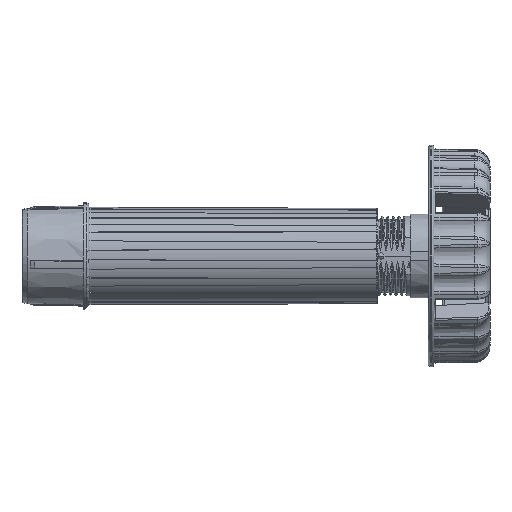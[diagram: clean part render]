
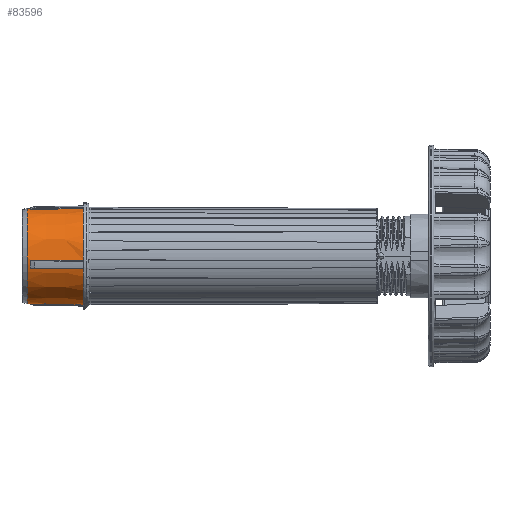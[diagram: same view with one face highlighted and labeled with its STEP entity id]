
A CAD part, left-side view. The second image highlights one B-rep face of the part: STEP entity #83596.
In plain terms, the highlighted conical face has half-angle 1 degrees and reference radius 17.285 mm.
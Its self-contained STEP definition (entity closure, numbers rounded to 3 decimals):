
#78003=CARTESIAN_POINT('',(0.,0.,0.));
#78004=DIRECTION('',(0.,-1.,0.));
#78005=DIRECTION('',(0.996,0.,0.086));
#78006=AXIS2_PLACEMENT_3D('',#78003,#78004,#78005);
#78008=CARTESIAN_POINT('',(0.,0.,0.));
#78009=DIRECTION('',(0.,-1.,0.));
#78010=DIRECTION('',(-0.086,0.,0.996));
#78011=AXIS2_PLACEMENT_3D('',#78008,#78009,#78010);
#78017=CARTESIAN_POINT('',(0.,19.,0.));
#78018=DIRECTION('',(0.,-1.,0.));
#78019=DIRECTION('',(1.,0.,0.));
#78020=AXIS2_PLACEMENT_3D('',#78017,#78018,#78019);
#78070=CARTESIAN_POINT('',(0.,19.,0.));
#78071=DIRECTION('',(0.,-1.,0.));
#78072=DIRECTION('',(0.088,0.,0.996));
#78073=AXIS2_PLACEMENT_3D('',#78070,#78071,#78072);
#78085=CARTESIAN_POINT('',(-1.5,0.,17.395));
#78086=CARTESIAN_POINT('',(-1.5,2.117,17.358));
#78087=CARTESIAN_POINT('',(-1.5,6.347,17.284));
#78088=CARTESIAN_POINT('',(-1.5,12.68,17.173));
#78089=CARTESIAN_POINT('',(-1.5,16.895,17.099));
#78090=CARTESIAN_POINT('',(-1.5,19.,17.063));
#78179=CARTESIAN_POINT('',(1.5,19.,17.063));
#78180=CARTESIAN_POINT('',(1.5,16.895,17.099));
#78181=CARTESIAN_POINT('',(1.5,12.681,17.173));
#78182=CARTESIAN_POINT('',(1.5,6.347,17.284));
#78183=CARTESIAN_POINT('',(1.5,2.117,17.358));
#78184=CARTESIAN_POINT('',(1.5,0.,17.395));
#82512=CARTESIAN_POINT('',(0.,20.09,0.));
#82513=DIRECTION('',(0.,-1.,0.));
#82514=DIRECTION('',(1.,0.,0.));
#82515=AXIS2_PLACEMENT_3D('',#82512,#82513,#82514);
#82517=DIRECTION('',(-0.017,1.,0.));
#82518=VECTOR('',#82517,1.09);
#82519=CARTESIAN_POINT('',(17.128,19.,0.));
#82520=LINE('',#82519,#82518);
#82521=DIRECTION('',(0.017,1.,0.));
#82522=VECTOR('',#82521,1.09);
#82523=CARTESIAN_POINT('',(-17.128,19.,0.));
#82524=LINE('',#82523,#82522);
#82544=CARTESIAN_POINT('',(0.,19.,0.));
#82545=DIRECTION('',(0.,-1.,0.));
#82546=DIRECTION('',(-0.996,0.,0.088));
#82547=AXIS2_PLACEMENT_3D('',#82544,#82545,#82546);
#82653=CARTESIAN_POINT('',(-17.063,19.,1.5));
#82654=CARTESIAN_POINT('',(-17.099,16.895,1.5));
#82655=CARTESIAN_POINT('',(-17.173,12.681,1.5));
#82656=CARTESIAN_POINT('',(-17.284,6.347,1.5));
#82657=CARTESIAN_POINT('',(-17.358,2.117,1.5));
#82658=CARTESIAN_POINT('',(-17.395,0.,1.5));
#82885=CARTESIAN_POINT('',(17.395,0.,1.5));
#82886=CARTESIAN_POINT('',(17.358,2.117,1.5));
#82887=CARTESIAN_POINT('',(17.284,6.347,1.5));
#82888=CARTESIAN_POINT('',(17.173,12.68,1.5));
#82889=CARTESIAN_POINT('',(17.099,16.895,1.5));
#82890=CARTESIAN_POINT('',(17.063,19.,1.5));
#82954=CARTESIAN_POINT('',(17.109,20.09,0.));
#82955=CARTESIAN_POINT('',(-17.109,20.09,0.));
#82956=VERTEX_POINT('',#82954);
#82957=VERTEX_POINT('',#82955);
#82958=CARTESIAN_POINT('',(1.5,19.,17.063));
#82959=CARTESIAN_POINT('',(-1.5,19.,17.063));
#82960=VERTEX_POINT('',#82958);
#82961=VERTEX_POINT('',#82959);
#82962=VERTEX_POINT('',#78085);
#82963=VERTEX_POINT('',#78184);
#82964=CARTESIAN_POINT('',(-17.063,19.,1.5));
#82965=CARTESIAN_POINT('',(-17.128,19.,0.));
#82966=VERTEX_POINT('',#82964);
#82967=VERTEX_POINT('',#82965);
#82968=VERTEX_POINT('',#82658);
#82978=CARTESIAN_POINT('',(17.128,19.,0.));
#82979=CARTESIAN_POINT('',(17.063,19.,1.5));
#82980=VERTEX_POINT('',#82978);
#82981=VERTEX_POINT('',#82979);
#82982=VERTEX_POINT('',#82885);
#83565=CARTESIAN_POINT('',(0.,10.045,0.));
#83566=DIRECTION('',(0.,-1.,0.));
#83567=DIRECTION('',(-1.,0.,0.));
#83568=AXIS2_PLACEMENT_3D('',#83565,#83566,#83567);
#83569=CONICAL_SURFACE('',#83568,17.285,1.);
#83571=ORIENTED_EDGE('',*,*,#83570,.T.);
#83573=ORIENTED_EDGE('',*,*,#83572,.F.);
#83575=ORIENTED_EDGE('',*,*,#83574,.T.);
#83577=ORIENTED_EDGE('',*,*,#83576,.F.);
#83579=ORIENTED_EDGE('',*,*,#83578,.T.);
#83581=ORIENTED_EDGE('',*,*,#83580,.F.);
#83583=ORIENTED_EDGE('',*,*,#83582,.T.);
#83585=ORIENTED_EDGE('',*,*,#83584,.F.);
#83587=ORIENTED_EDGE('',*,*,#83586,.T.);
#83589=ORIENTED_EDGE('',*,*,#83588,.T.);
#83591=ORIENTED_EDGE('',*,*,#83590,.F.);
#83593=ORIENTED_EDGE('',*,*,#83592,.F.);
#83594=EDGE_LOOP('',(#83571,#83573,#83575,#83577,#83579,#83581,#83583,#83585,
#83587,#83589,#83591,#83593));
#83595=FACE_OUTER_BOUND('',#83594,.F.);
#83596=ADVANCED_FACE('',(#83595),#83569,.T.);
#78007=CIRCLE('',#78006,17.46);
#78012=CIRCLE('',#78011,17.46);
#78021=CIRCLE('',#78020,17.128);
#78074=CIRCLE('',#78073,17.128);
#78091=B_SPLINE_CURVE_WITH_KNOTS('',3,(#78085,#78086,#78087,#78088,#78089,
#78090),.UNSPECIFIED.,.F.,.F.,(4,1,1,4),(0.,0.333,
0.667,1.),.UNSPECIFIED.);
#78185=B_SPLINE_CURVE_WITH_KNOTS('',3,(#78179,#78180,#78181,#78182,#78183,
#78184),.UNSPECIFIED.,.F.,.F.,(4,1,1,4),(0.,0.333,
0.667,1.),.UNSPECIFIED.);
#82516=CIRCLE('',#82515,17.109);
#82548=CIRCLE('',#82547,17.128);
#82659=B_SPLINE_CURVE_WITH_KNOTS('',3,(#82653,#82654,#82655,#82656,#82657,
#82658),.UNSPECIFIED.,.F.,.F.,(4,1,1,4),(0.,0.333,
0.667,1.),.UNSPECIFIED.);
#82891=B_SPLINE_CURVE_WITH_KNOTS('',3,(#82885,#82886,#82887,#82888,#82889,
#82890),.UNSPECIFIED.,.F.,.F.,(4,1,1,4),(0.,0.333,
0.667,1.),.UNSPECIFIED.);
#83570=EDGE_CURVE('',#82980,#82981,#78021,.T.);
#83572=EDGE_CURVE('',#82982,#82981,#82891,.T.);
#83574=EDGE_CURVE('',#82982,#82963,#78007,.T.);
#83576=EDGE_CURVE('',#82960,#82963,#78185,.T.);
#83578=EDGE_CURVE('',#82960,#82961,#78074,.T.);
#83580=EDGE_CURVE('',#82962,#82961,#78091,.T.);
#83582=EDGE_CURVE('',#82962,#82968,#78012,.T.);
#83584=EDGE_CURVE('',#82966,#82968,#82659,.T.);
#83586=EDGE_CURVE('',#82966,#82967,#82548,.T.);
#83588=EDGE_CURVE('',#82967,#82957,#82524,.T.);
#83590=EDGE_CURVE('',#82956,#82957,#82516,.T.);
#83592=EDGE_CURVE('',#82980,#82956,#82520,.T.);
